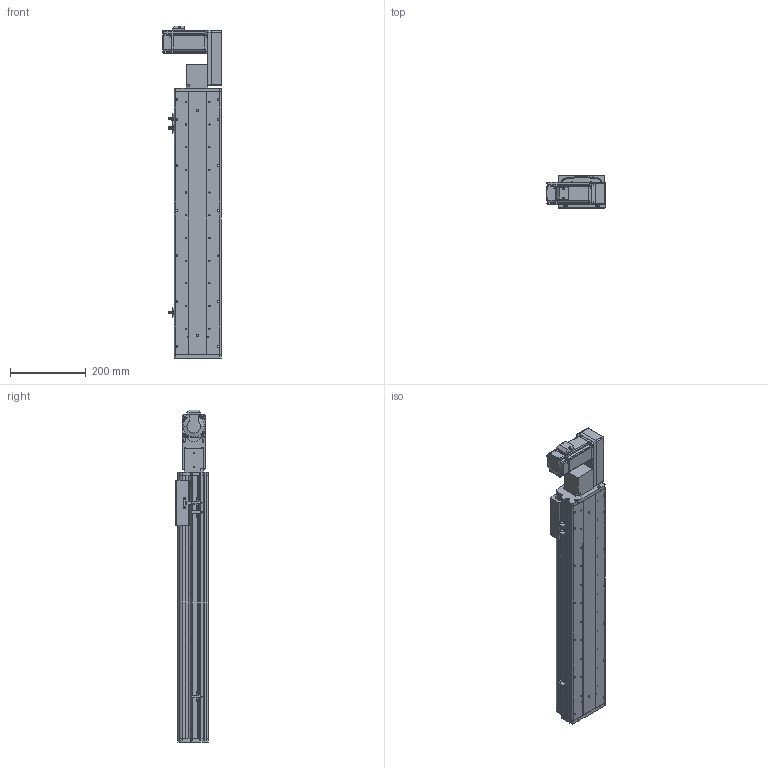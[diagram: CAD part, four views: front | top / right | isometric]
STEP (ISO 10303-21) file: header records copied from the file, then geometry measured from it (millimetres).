
FILE_DESCRIPTION (( 'STEP AP214' ), '1' );
FILE_NAME ('KSD125B-S500-MLB-CM.STEP', '2017-10-21T01:37:58', ( '微软用户' ), ( '微软中国' ), 'SwSTEP 2.0', 'SolidWorks 2014', '' );
FILE_SCHEMA (( 'AUTOMOTIVE_DESIGN' ));
Length unit declared in the file: millimetre
Products named in the file (17): KSD125模组同步带-滑动座1; 125模组500行程同步带-底板; KSD125B-S500-MLB-CM; 悵誘欶奻狟殏; HTPA30S3M150_A_H6_a佪裝蚚; HTPA30S3M150_A_H6_a萇儂蚚; 100宽马达安装板连板上下折丝杆同步带; MHMD042G1CA_2_03; 100宽马达安装板同步带左; KSD125模组同步带-防撞垫2; 覜茼え68遵圉猾敕; U倰嫖萇假蚾璃; U倰嫖萇EEㄜSX672; KSD125模组同步带-防撞垫1; 前端板-125宽模组同步带; 125模组同步带-尾端板1; KSD125模组500行程同步带-防尘盖
Assembly tree (20 placements, depth 2):
  KSD125B-S500-MLB-CM
    125模组500行程同步带-底板
    KSD125模组同步带-滑动座1
    KSD125模组500行程同步带-防尘盖
    125模组同步带-尾端板1
    前端板-125宽模组同步带
    KSD125模组同步带-防撞垫1
    U倰嫖萇EEㄜSX672  x3
    U倰嫖萇假蚾璃  x3
    覜茼え68遵圉猾敕
    KSD125模组同步带-防撞垫2
    100宽马达安装板同步带左
    MHMD042G1CA_2_03
    100宽马达安装板连板上下折丝杆同步带
    HTPA30S3M150_A_H6_a萇儂蚚
    HTPA30S3M150_A_H6_a佪裝蚚
    悵誘欶奻狟殏
Bounding box: 155 x 86 x 878 mm (x, y, z)
Volume: 2588753.5 mm3; surface area: 901260.6 mm2
Topology: 19 solids, 22 shells, 2249 faces, 6511 edges, 4302 vertices
Faces by surface type: cylinder 1400, plane 722, cone 105, bspline 22
Entity records: 79709 total; most frequent: CARTESIAN_POINT 15777, DIRECTION 12400, ORIENTED_EDGE 11542, EDGE_CURVE 5849, AXIS2_PLACEMENT_3D 4785, VERTEX_POINT 3894, VECTOR 2830, LINE 2830
